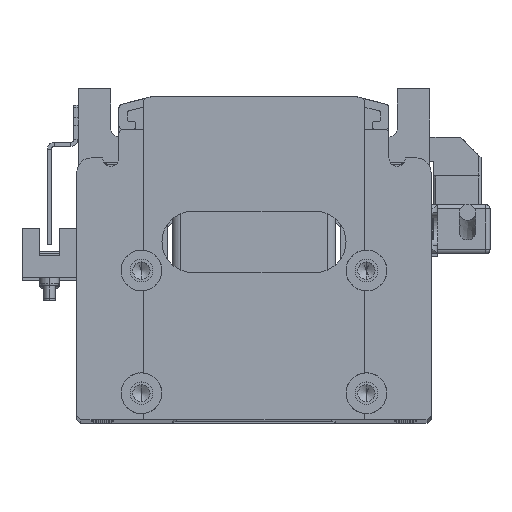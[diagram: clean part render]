
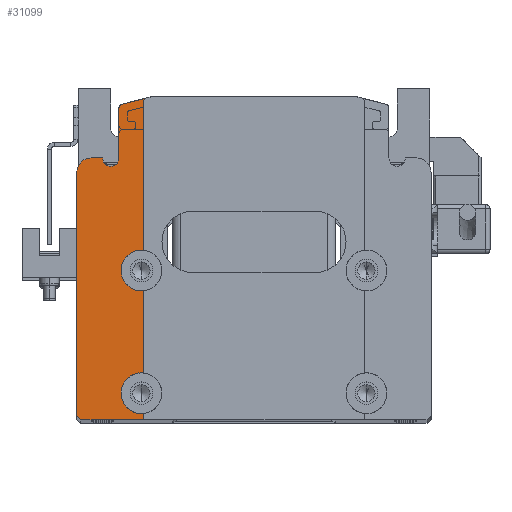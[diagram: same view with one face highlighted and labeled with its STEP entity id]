
A CAD part, top view. The second image highlights one B-rep face of the part: STEP entity #31099.
In plain terms, the highlighted planar face has unit normal (0, 0, 1).
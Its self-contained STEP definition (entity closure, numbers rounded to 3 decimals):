
#252 = ORIENTED_EDGE ( 'NONE', *, *, #37522, .T. ) ;
#371 = ORIENTED_EDGE ( 'NONE', *, *, #6428, .T. ) ;
#395 = CARTESIAN_POINT ( 'NONE',  ( -27.5, -33., 12.5 ) ) ;
#496 = LINE ( 'NONE', #6500, #34231 ) ;
#612 = CARTESIAN_POINT ( 'NONE',  ( -32.5, -3., 12.5 ) ) ;
#650 = DIRECTION ( 'NONE',  ( 0., 0., 1. ) ) ;
#673 = CARTESIAN_POINT ( 'NONE',  ( -27., 39.5, 12.5 ) ) ;
#699 = EDGE_CURVE ( 'NONE', #23414, #7987, #21345, .T. ) ;
#836 = CIRCLE ( 'NONE', #8618, 5. ) ;
#1173 = VERTEX_POINT ( 'NONE', #10093 ) ;
#1248 = CARTESIAN_POINT ( 'NONE',  ( 0., 24.5, 12.5 ) ) ;
#1544 = DIRECTION ( 'NONE',  ( 1., 0., 0. ) ) ;
#2500 = CARTESIAN_POINT ( 'NONE',  ( -27., 39.5, 12.5 ) ) ;
#2605 = CARTESIAN_POINT ( 'NONE',  ( -27., 38.219, 12.5 ) ) ;
#3560 = VECTOR ( 'NONE', #23974, 1000. ) ;
#3565 = DIRECTION ( 'NONE',  ( 1., 0., 0. ) ) ;
#3611 = DIRECTION ( 'NONE',  ( 1., 0., 0. ) ) ;
#3884 = VECTOR ( 'NONE', #25561, 1000. ) ;
#4152 = VERTEX_POINT ( 'NONE', #35871 ) ;
#4650 = CARTESIAN_POINT ( 'NONE',  ( -27., -28.025, 12.5 ) ) ;
#4870 = VERTEX_POINT ( 'NONE', #17365 ) ;
#5062 = EDGE_CURVE ( 'NONE', #1173, #14380, #32771, .T. ) ;
#5211 = DIRECTION ( 'NONE',  ( -0.97, -0.243, 0. ) ) ;
#5546 = ORIENTED_EDGE ( 'NONE', *, *, #40643, .F. ) ;
#5698 = LINE ( 'NONE', #11647, #34279 ) ;
#5815 = EDGE_LOOP ( 'NONE', ( #24473, #27207, #5546, #20109, #26683, #39835, #371, #33930, #252, #9390, #17491, #41645, #20865, #13103, #10860, #30296, #30783 ) ) ;
#6428 = EDGE_CURVE ( 'NONE', #20619, #4152, #26520, .T. ) ;
#6500 = CARTESIAN_POINT ( 'NONE',  ( -43.3, -39.5, 12.5 ) ) ;
#6750 = VERTEX_POINT ( 'NONE', #26132 ) ;
#6948 = CIRCLE ( 'NONE', #22990, 3.5 ) ;
#7056 = DIRECTION ( 'NONE',  ( 0., 0., -1. ) ) ;
#7495 = CARTESIAN_POINT ( 'NONE',  ( -32.243, 37.689, 12.5 ) ) ;
#7987 = VERTEX_POINT ( 'NONE', #13885 ) ;
#8018 = CIRCLE ( 'NONE', #35877, 1. ) ;
#8618 = AXIS2_PLACEMENT_3D ( 'NONE', #395, #650, #10368 ) ;
#8894 = EDGE_CURVE ( 'NONE', #15719, #15194, #35448, .T. ) ;
#9133 = VECTOR ( 'NONE', #41252, 1000. ) ;
#9233 = PLANE ( 'NONE',  #14322 ) ;
#9234 = CIRCLE ( 'NONE', #25060, 5. ) ;
#9390 = ORIENTED_EDGE ( 'NONE', *, *, #16383, .T. ) ;
#10093 = CARTESIAN_POINT ( 'NONE',  ( -27., 1.975, 12.5 ) ) ;
#10096 = DIRECTION ( 'NONE',  ( 0., 0., 1. ) ) ;
#10368 = DIRECTION ( 'NONE',  ( 1., 0., 0. ) ) ;
#10606 = DIRECTION ( 'NONE',  ( 1., 0., 0. ) ) ;
#10788 = EDGE_CURVE ( 'NONE', #7987, #32033, #836, .T. ) ;
#10860 = ORIENTED_EDGE ( 'NONE', *, *, #39863, .F. ) ;
#11289 = CARTESIAN_POINT ( 'NONE',  ( -27., 39.5, 12.5 ) ) ;
#11512 = LINE ( 'NONE', #673, #34993 ) ;
#11647 = CARTESIAN_POINT ( 'NONE',  ( -10.765, 43.059, 12.5 ) ) ;
#12269 = LINE ( 'NONE', #11289, #3560 ) ;
#12697 = LINE ( 'NONE', #40176, #29034 ) ;
#13103 = ORIENTED_EDGE ( 'NONE', *, *, #19606, .F. ) ;
#13601 = EDGE_CURVE ( 'NONE', #14094, #4870, #8018, .T. ) ;
#13720 = CARTESIAN_POINT ( 'NONE',  ( -27.5, -3., 12.5 ) ) ;
#13885 = CARTESIAN_POINT ( 'NONE',  ( -32.5, -33., 12.5 ) ) ;
#13951 = DIRECTION ( 'NONE',  ( 1., 0., 0. ) ) ;
#14094 = VERTEX_POINT ( 'NONE', #7495 ) ;
#14322 = AXIS2_PLACEMENT_3D ( 'NONE', #16085, #38928, #22205 ) ;
#14380 = VERTEX_POINT ( 'NONE', #2605 ) ;
#14390 = EDGE_CURVE ( 'NONE', #4152, #16312, #40154, .T. ) ;
#15047 = CARTESIAN_POINT ( 'NONE',  ( -33., 24.5, 12.5 ) ) ;
#15194 = VERTEX_POINT ( 'NONE', #15047 ) ;
#15347 = EDGE_CURVE ( 'NONE', #26946, #20619, #6948, .T. ) ;
#15375 = DIRECTION ( 'NONE',  ( 1., 0., 0. ) ) ;
#15684 = VERTEX_POINT ( 'NONE', #19600 ) ;
#15719 = VERTEX_POINT ( 'NONE', #19756 ) ;
#15901 = EDGE_CURVE ( 'NONE', #14380, #31424, #39627, .T. ) ;
#16085 = CARTESIAN_POINT ( 'NONE',  ( 0., 0., 12.5 ) ) ;
#16312 = VERTEX_POINT ( 'NONE', #25952 ) ;
#16383 = EDGE_CURVE ( 'NONE', #6750, #32033, #11512, .T. ) ;
#16619 = CARTESIAN_POINT ( 'NONE',  ( -39.8, 21., 12.5 ) ) ;
#16817 = DIRECTION ( 'NONE',  ( 0., 1., 0. ) ) ;
#17365 = CARTESIAN_POINT ( 'NONE',  ( -33., 36.719, 12.5 ) ) ;
#17491 = ORIENTED_EDGE ( 'NONE', *, *, #10788, .F. ) ;
#19322 = DIRECTION ( 'NONE',  ( 1., 0., 0. ) ) ;
#19458 = CARTESIAN_POINT ( 'NONE',  ( -43.3, 21., 12.5 ) ) ;
#19600 = CARTESIAN_POINT ( 'NONE',  ( -27., -7.975, 12.5 ) ) ;
#19606 = EDGE_CURVE ( 'NONE', #23615, #15684, #9234, .T. ) ;
#19756 = CARTESIAN_POINT ( 'NONE',  ( -37., 24.5, 12.5 ) ) ;
#19787 = DIRECTION ( 'NONE',  ( 0., 0., 1. ) ) ;
#20109 = ORIENTED_EDGE ( 'NONE', *, *, #8894, .F. ) ;
#20619 = VERTEX_POINT ( 'NONE', #19458 ) ;
#20645 = DIRECTION ( 'NONE',  ( 0., 1., 0. ) ) ;
#20865 = ORIENTED_EDGE ( 'NONE', *, *, #24434, .T. ) ;
#20966 = CARTESIAN_POINT ( 'NONE',  ( -39.8, 24.5, 12.5 ) ) ;
#21345 = CIRCLE ( 'NONE', #37616, 5. ) ;
#22205 = DIRECTION ( 'NONE',  ( 1., 0., 0. ) ) ;
#22990 = AXIS2_PLACEMENT_3D ( 'NONE', #16619, #19787, #3611 ) ;
#23030 = AXIS2_PLACEMENT_3D ( 'NONE', #13720, #39820, #3565 ) ;
#23087 = CARTESIAN_POINT ( 'NONE',  ( -27.5, -3., 12.5 ) ) ;
#23180 = CARTESIAN_POINT ( 'NONE',  ( -32., 36.719, 12.5 ) ) ;
#23414 = VERTEX_POINT ( 'NONE', #4650 ) ;
#23615 = VERTEX_POINT ( 'NONE', #612 ) ;
#23642 = CARTESIAN_POINT ( 'NONE',  ( -35., 24.5, 12.5 ) ) ;
#23974 = DIRECTION ( 'NONE',  ( 0., 1., 0. ) ) ;
#24434 = EDGE_CURVE ( 'NONE', #23414, #15684, #12269, .T. ) ;
#24473 = ORIENTED_EDGE ( 'NONE', *, *, #35457, .T. ) ;
#24614 = VECTOR ( 'NONE', #1544, 1000. ) ;
#25060 = AXIS2_PLACEMENT_3D ( 'NONE', #23087, #33108, #30103 ) ;
#25561 = DIRECTION ( 'NONE',  ( 0.707, -0.707, 0. ) ) ;
#25952 = CARTESIAN_POINT ( 'NONE',  ( -42.3, -39.5, 12.5 ) ) ;
#26132 = CARTESIAN_POINT ( 'NONE',  ( -27., -39.5, 12.5 ) ) ;
#26337 = DIRECTION ( 'NONE',  ( 1., 0., 0. ) ) ;
#26520 = LINE ( 'NONE', #37610, #9133 ) ;
#26683 = ORIENTED_EDGE ( 'NONE', *, *, #34755, .F. ) ;
#26864 = CARTESIAN_POINT ( 'NONE',  ( -26., 38.219, 12.5 ) ) ;
#26946 = VERTEX_POINT ( 'NONE', #20966 ) ;
#27156 = LINE ( 'NONE', #1248, #24614 ) ;
#27207 = ORIENTED_EDGE ( 'NONE', *, *, #13601, .T. ) ;
#28370 = CARTESIAN_POINT ( 'NONE',  ( -27.5, -33., 12.5 ) ) ;
#29034 = VECTOR ( 'NONE', #20645, 1000. ) ;
#29708 = CIRCLE ( 'NONE', #23030, 5. ) ;
#30103 = DIRECTION ( 'NONE',  ( 1., 0., 0. ) ) ;
#30296 = ORIENTED_EDGE ( 'NONE', *, *, #5062, .T. ) ;
#30783 = ORIENTED_EDGE ( 'NONE', *, *, #15901, .T. ) ;
#31099 = ADVANCED_FACE ( 'NONE', ( #35150 ), #9233, .T. ) ;
#31222 = CARTESIAN_POINT ( 'NONE',  ( -27., -37.975, 12.5 ) ) ;
#31424 = VERTEX_POINT ( 'NONE', #36486 ) ;
#31738 = DIRECTION ( 'NONE',  ( 0., 1., 0. ) ) ;
#32033 = VERTEX_POINT ( 'NONE', #31222 ) ;
#32771 = LINE ( 'NONE', #2500, #38425 ) ;
#33108 = DIRECTION ( 'NONE',  ( 0., 0., 1. ) ) ;
#33504 = DIRECTION ( 'NONE',  ( 0., 0., 1. ) ) ;
#33930 = ORIENTED_EDGE ( 'NONE', *, *, #14390, .T. ) ;
#34231 = VECTOR ( 'NONE', #19322, 1000. ) ;
#34279 = VECTOR ( 'NONE', #5211, 1000. ) ;
#34755 = EDGE_CURVE ( 'NONE', #26946, #15719, #27156, .T. ) ;
#34978 = DIRECTION ( 'NONE',  ( 0., 0., 1. ) ) ;
#34993 = VECTOR ( 'NONE', #16817, 1000. ) ;
#35150 = FACE_OUTER_BOUND ( 'NONE', #5815, .T. ) ;
#35448 = CIRCLE ( 'NONE', #39781, 2. ) ;
#35457 = EDGE_CURVE ( 'NONE', #31424, #14094, #5698, .T. ) ;
#35762 = CARTESIAN_POINT ( 'NONE',  ( -40.9, -40.9, 12.5 ) ) ;
#35871 = CARTESIAN_POINT ( 'NONE',  ( -43.3, -38.5, 12.5 ) ) ;
#35877 = AXIS2_PLACEMENT_3D ( 'NONE', #23180, #10096, #26337 ) ;
#36213 = AXIS2_PLACEMENT_3D ( 'NONE', #26864, #7056, #10606 ) ;
#36486 = CARTESIAN_POINT ( 'NONE',  ( -26.243, 39.189, 12.5 ) ) ;
#37522 = EDGE_CURVE ( 'NONE', #16312, #6750, #496, .T. ) ;
#37610 = CARTESIAN_POINT ( 'NONE',  ( -43.3, 39.5, 12.5 ) ) ;
#37616 = AXIS2_PLACEMENT_3D ( 'NONE', #28370, #34978, #15375 ) ;
#38425 = VECTOR ( 'NONE', #31738, 1000. ) ;
#38928 = DIRECTION ( 'NONE',  ( 0., 0., 1. ) ) ;
#39627 = CIRCLE ( 'NONE', #36213, 1. ) ;
#39781 = AXIS2_PLACEMENT_3D ( 'NONE', #23642, #33504, #13951 ) ;
#39820 = DIRECTION ( 'NONE',  ( 0., 0., 1. ) ) ;
#39835 = ORIENTED_EDGE ( 'NONE', *, *, #15347, .T. ) ;
#39863 = EDGE_CURVE ( 'NONE', #1173, #23615, #29708, .T. ) ;
#40154 = LINE ( 'NONE', #35762, #3884 ) ;
#40176 = CARTESIAN_POINT ( 'NONE',  ( -33., 0., 12.5 ) ) ;
#40643 = EDGE_CURVE ( 'NONE', #15194, #4870, #12697, .T. ) ;
#41252 = DIRECTION ( 'NONE',  ( 0., -1., 0. ) ) ;
#41645 = ORIENTED_EDGE ( 'NONE', *, *, #699, .F. ) ;
